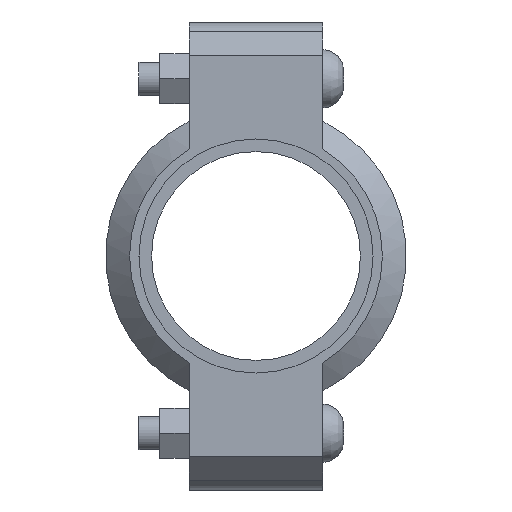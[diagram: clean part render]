
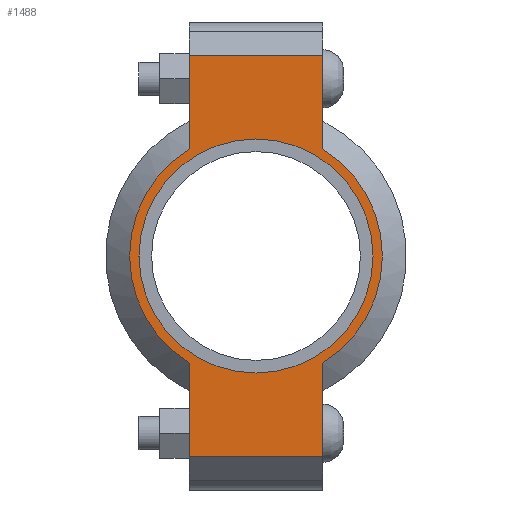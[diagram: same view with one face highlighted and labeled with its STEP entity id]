
A CAD part, left-side view. The second image highlights one B-rep face of the part: STEP entity #1488.
In plain terms, the highlighted planar face has unit normal (-1, 0, 0) as drawn and (0, 0, 1) by its records, which use the part's own axes.
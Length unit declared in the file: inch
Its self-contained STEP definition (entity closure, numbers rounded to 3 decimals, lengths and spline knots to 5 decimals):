
#168=LINE('',#2563,#259);
#176=LINE('',#2599,#267);
#183=LINE('',#2620,#274);
#192=LINE('',#2652,#283);
#193=LINE('',#2656,#284);
#194=LINE('',#2658,#285);
#259=VECTOR('',#2069,0.3937);
#267=VECTOR('',#2085,0.3937);
#274=VECTOR('',#2104,0.3937);
#283=VECTOR('',#2129,0.3937);
#284=VECTOR('',#2134,0.3937);
#285=VECTOR('',#2135,0.3937);
#337=FACE_BOUND('',#497,.T.);
#401=FACE_OUTER_BOUND('',#496,.T.);
#496=EDGE_LOOP('',(#1223,#1224,#1225,#1226,#1227,#1228,#1229,#1230));
#497=EDGE_LOOP('',(#1231));
#594=CIRCLE('',#1731,1.89);
#595=CIRCLE('',#1732,1.89);
#596=CIRCLE('',#1733,1.75);
#699=VERTEX_POINT('',#2560);
#700=VERTEX_POINT('',#2562);
#711=VERTEX_POINT('',#2594);
#712=VERTEX_POINT('',#2598);
#719=VERTEX_POINT('',#2617);
#720=VERTEX_POINT('',#2619);
#730=VERTEX_POINT('',#2655);
#731=VERTEX_POINT('',#2657);
#732=VERTEX_POINT('',#2660);
#863=EDGE_CURVE('',#700,#699,#168,.T.);
#877=EDGE_CURVE('',#712,#711,#176,.T.);
#887=EDGE_CURVE('',#720,#719,#183,.T.);
#902=EDGE_CURVE('',#712,#699,#192,.T.);
#903=EDGE_CURVE('',#711,#720,#594,.T.);
#904=EDGE_CURVE('',#730,#719,#193,.T.);
#905=EDGE_CURVE('',#730,#731,#194,.T.);
#906=EDGE_CURVE('',#731,#700,#595,.T.);
#907=EDGE_CURVE('',#732,#732,#596,.T.);
#1223=ORIENTED_EDGE('',*,*,#902,.F.);
#1224=ORIENTED_EDGE('',*,*,#877,.T.);
#1225=ORIENTED_EDGE('',*,*,#903,.T.);
#1226=ORIENTED_EDGE('',*,*,#887,.T.);
#1227=ORIENTED_EDGE('',*,*,#904,.F.);
#1228=ORIENTED_EDGE('',*,*,#905,.T.);
#1229=ORIENTED_EDGE('',*,*,#906,.T.);
#1230=ORIENTED_EDGE('',*,*,#863,.T.);
#1231=ORIENTED_EDGE('',*,*,#907,.T.);
#1342=PLANE('',#1730);
#1488=ADVANCED_FACE('',(#401,#337),#1342,.T.);
#1730=AXIS2_PLACEMENT_3D('',#2653,#2130,#2131);
#1731=AXIS2_PLACEMENT_3D('',#2654,#2132,#2133);
#1732=AXIS2_PLACEMENT_3D('',#2659,#2136,#2137);
#1733=AXIS2_PLACEMENT_3D('',#2661,#2138,#2139);
#2069=DIRECTION('',(-1.,0.,0.));
#2085=DIRECTION('',(1.,0.,0.));
#2104=DIRECTION('',(1.,0.,0.));
#2129=DIRECTION('',(0.,1.,0.));
#2130=DIRECTION('center_axis',(0.,0.,1.));
#2131=DIRECTION('ref_axis',(1.,0.,0.));
#2132=DIRECTION('center_axis',(0.,0.,1.));
#2133=DIRECTION('ref_axis',(-1.,0.,0.));
#2134=DIRECTION('',(0.,-1.,0.));
#2135=DIRECTION('',(-1.,0.,0.));
#2136=DIRECTION('center_axis',(0.,0.,1.));
#2137=DIRECTION('ref_axis',(-1.,0.,0.));
#2138=DIRECTION('center_axis',(0.,0.,-1.));
#2139=DIRECTION('ref_axis',(-1.,0.,0.));
#2560=CARTESIAN_POINT('',(-3.,1.,0.94));
#2562=CARTESIAN_POINT('',(-1.60378,1.,0.94));
#2563=CARTESIAN_POINT('',(-3.5,1.,0.94));
#2594=CARTESIAN_POINT('',(-1.60378,-1.,0.94));
#2598=CARTESIAN_POINT('',(-3.,-1.,0.94));
#2599=CARTESIAN_POINT('',(3.5,-1.,0.94));
#2617=CARTESIAN_POINT('',(3.,-1.,0.94));
#2619=CARTESIAN_POINT('',(1.60378,-1.,0.94));
#2620=CARTESIAN_POINT('',(3.5,-1.,0.94));
#2652=CARTESIAN_POINT('',(-3.,0.5,0.94));
#2653=CARTESIAN_POINT('Origin',(0.,0.,
0.94));
#2654=CARTESIAN_POINT('Origin',(0.,0.,0.94));
#2655=CARTESIAN_POINT('',(3.,1.,0.94));
#2656=CARTESIAN_POINT('',(3.,-0.5,0.94));
#2657=CARTESIAN_POINT('',(1.60378,1.,0.94));
#2658=CARTESIAN_POINT('',(-3.5,1.,0.94));
#2659=CARTESIAN_POINT('Origin',(0.,0.,0.94));
#2660=CARTESIAN_POINT('',(1.75,0.,0.94));
#2661=CARTESIAN_POINT('Origin',(0.,0.,0.94));
